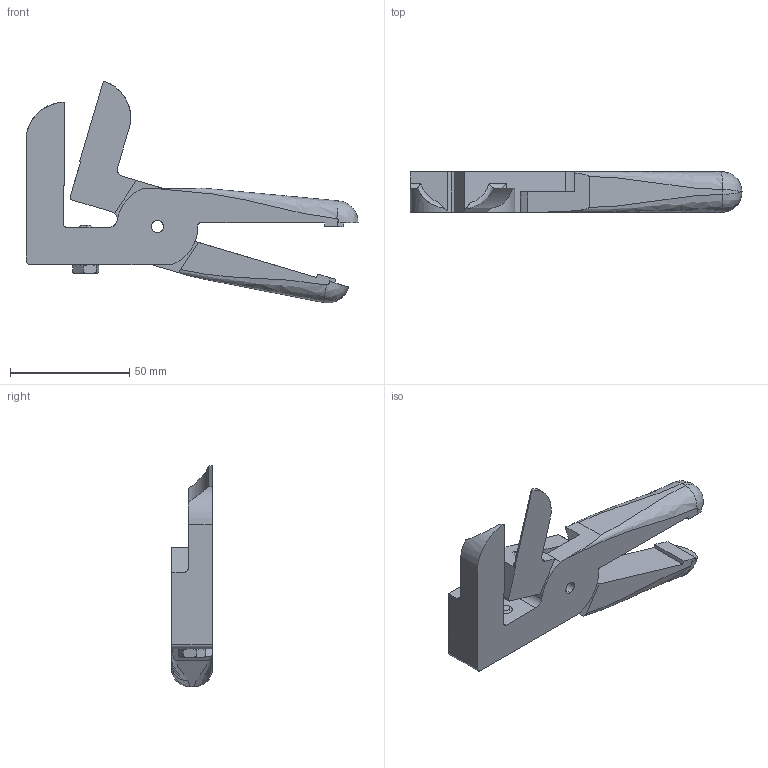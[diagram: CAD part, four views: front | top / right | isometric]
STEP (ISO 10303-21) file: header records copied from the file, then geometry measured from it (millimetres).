
FILE_DESCRIPTION (( 'STEP AP203' ), '1' );
FILE_NAME ('N30AML1435.STEP', '2024-07-24T07:36:15', ( '微软用户' ), ( '微软中国' ), 'SwSTEP 2.0', 'SolidWorks 2018', '' );
FILE_SCHEMA (( 'CONFIG_CONTROL_DESIGN' ));
Length unit declared in the file: millimetre
Products named in the file (5): N30AML1435固定刃; M6敄宆暖; N30AML1435可動刃; N30AML1435; 榋妏寠晅巭傔燃轒6L20
Assembly tree (4 placements, depth 2):
  N30AML1435
    N30AML1435固定刃
    N30AML1435可動刃
    榋妏寠晅巭傔燃轒6L20
    M6敄宆暖
Bounding box: 139 x 17 x 92.92 mm (x, y, z)
Volume: 66766.2 mm3; surface area: 22731.7 mm2
Topology: 4 solids, 4 shells, 135 faces, 348 edges, 220 vertices
Faces by surface type: plane 63, cylinder 40, cone 22, bspline 10
Entity records: 5704 total; most frequent: CARTESIAN_POINT 1961, ORIENTED_EDGE 692, DIRECTION 661, EDGE_CURVE 346, AXIS2_PLACEMENT_3D 242, VERTEX_POINT 220, VECTOR 177, LINE 177
